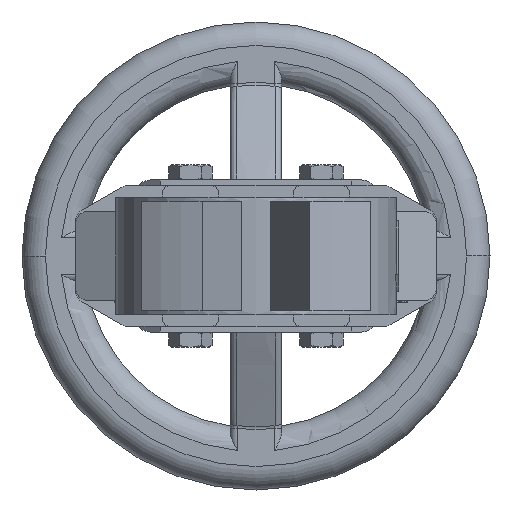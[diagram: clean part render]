
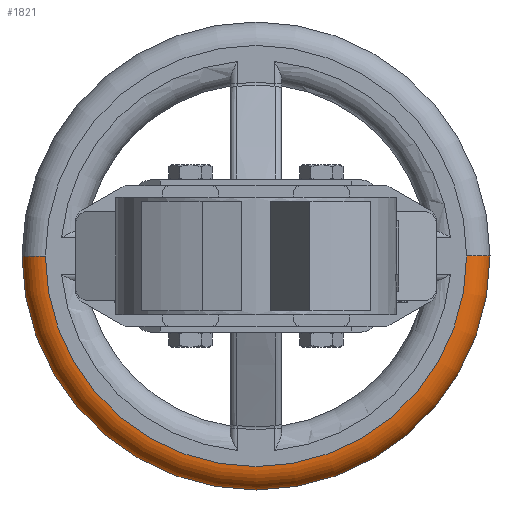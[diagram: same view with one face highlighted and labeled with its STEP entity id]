
A CAD part, front view. The second image highlights one B-rep face of the part: STEP entity #1821.
In plain terms, the highlighted toroidal (fillet/blend) face has major radius 90 mm and minor radius 10 mm.
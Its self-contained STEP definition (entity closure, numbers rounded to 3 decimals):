
#1788 = EDGE_CURVE ( 'NONE', #21271, #30320, #28996, .T. ) ;
#1799 = ORIENTED_EDGE ( 'NONE', *, *, #1788, .F. ) ;
#1800 = ORIENTED_EDGE ( 'NONE', *, *, #11325, .T. ) ;
#1821 = ADVANCED_FACE ( 'NONE', ( #29142 ), #29141, .T. ) ;
#1822 = EDGE_LOOP ( 'NONE', ( #1823, #1826, #1800, #1799 ) ) ;
#1823 = ORIENTED_EDGE ( 'NONE', *, *, #6057, .F. ) ;
#1826 = ORIENTED_EDGE ( 'NONE', *, *, #13350, .T. ) ;
#6012 = VERTEX_POINT ( 'NONE', #6492 ) ;
#6057 = EDGE_CURVE ( 'NONE', #6012, #21271, #6468, .T. ) ;
#6466 = CARTESIAN_POINT ( 'NONE',  ( 90., 330., 0. ) ) ;
#6467 = AXIS2_PLACEMENT_3D ( 'NONE', #6466, #6522, #6521 ) ;
#6468 = CIRCLE ( 'NONE', #6467, 10. ) ;
#6492 = CARTESIAN_POINT ( 'NONE',  ( 90., 320., 0. ) ) ;
#6521 = DIRECTION ( 'NONE',  ( 1., 0., 0. ) ) ;
#6522 = DIRECTION ( 'NONE',  ( 0., 0., 1. ) ) ;
#8591 = DIRECTION ( 'NONE',  ( -1., 0., 0. ) ) ;
#8593 = DIRECTION ( 'NONE',  ( 0., 0., -1. ) ) ;
#8594 = CARTESIAN_POINT ( 'NONE',  ( -90., 330., 0. ) ) ;
#8595 = AXIS2_PLACEMENT_3D ( 'NONE', #8594, #8593, #8591 ) ;
#8613 = CIRCLE ( 'NONE', #8595, 10. ) ;
#8943 = CARTESIAN_POINT ( 'NONE',  ( -90., 320., 0. ) ) ;
#11325 = EDGE_CURVE ( 'NONE', #11455, #30320, #8613, .T. ) ;
#11455 = VERTEX_POINT ( 'NONE', #8943 ) ;
#13350 = EDGE_CURVE ( 'NONE', #6012, #11455, #17793, .T. ) ;
#17789 = DIRECTION ( 'NONE',  ( -1., 0., 0. ) ) ;
#17790 = DIRECTION ( 'NONE',  ( 0., 1., 0. ) ) ;
#17791 = CARTESIAN_POINT ( 'NONE',  ( 0., 320., 0. ) ) ;
#17792 = AXIS2_PLACEMENT_3D ( 'NONE', #17791, #17790, #17789 ) ;
#17793 = CIRCLE ( 'NONE', #17792, 90. ) ;
#21271 = VERTEX_POINT ( 'NONE', #21393 ) ;
#21393 = CARTESIAN_POINT ( 'NONE',  ( 100., 330., 0. ) ) ;
#24216 = CARTESIAN_POINT ( 'NONE',  ( -100., 330., 0. ) ) ;
#28990 = DIRECTION ( 'NONE',  ( 0., 1., 0. ) ) ;
#28991 = CARTESIAN_POINT ( 'NONE',  ( 0., 330., 0. ) ) ;
#28992 = AXIS2_PLACEMENT_3D ( 'NONE', #28991, #28990, #29053 ) ;
#28996 = CIRCLE ( 'NONE', #28992, 100. ) ;
#29053 = DIRECTION ( 'NONE',  ( -1., 0., 0. ) ) ;
#29141 = TOROIDAL_SURFACE ( 'NONE', #29156, 90., 10. ) ;
#29142 = FACE_OUTER_BOUND ( 'NONE', #1822, .T. ) ;
#29154 = DIRECTION ( 'NONE',  ( 0., 1., 0. ) ) ;
#29155 = CARTESIAN_POINT ( 'NONE',  ( 0., 330., 0. ) ) ;
#29156 = AXIS2_PLACEMENT_3D ( 'NONE', #29155, #29154, #29211 ) ;
#29211 = DIRECTION ( 'NONE',  ( -1., 0., 0. ) ) ;
#30320 = VERTEX_POINT ( 'NONE', #24216 ) ;
